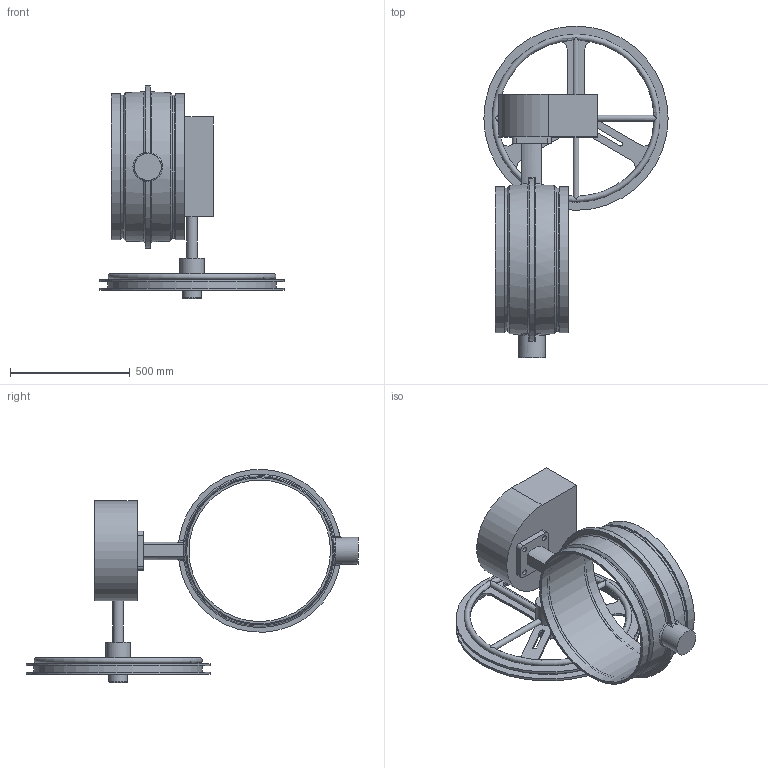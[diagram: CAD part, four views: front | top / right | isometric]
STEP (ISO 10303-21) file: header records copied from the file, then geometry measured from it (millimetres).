
FILE_DESCRIPTION(/* description */ ('VIC AGS VALVE BUTTERFLY VIC-300 MS CW SERIES W761 (AGS)'),/* implementation_level */ '2;1');
FILE_NAME(/* name */ 'C:\Files for Export\W761\STEP\Victaulic_IPS-AGS_Vlv Btfl Vic-300 MS CW_Series W761 (AGS)\Victaulic_IPS-AGS_Vlv Btfl Vic-300 MS CW_Series W761 (AGS)_24 (600).stp',/* time_stamp */ '2024-08-27T14:19:12+02:00',/* author */ ('jheald'),/* organization */ ('Victaulic'),/* preprocessor_version */ 'ST-DEVELOPER v18.1',/* originating_system */ 'Autodesk Inventor 2020',/* authorisation */ '');
FILE_SCHEMA (('AUTOMOTIVE_DESIGN { 1 0 10303 214 3 1 1 }'));
Length unit declared in the file: inch
Products named in the file (1): W761-24.0
Bounding box: 768.35 x 1384.43 x 888.34 mm (x, y, z)
Volume: 44541780.3 mm3; surface area: 3072622.4 mm2
Topology: 2 solids, 2 shells, 159 faces, 448 edges, 285 vertices
Faces by surface type: cylinder 66, plane 53, torus 18, bspline 10, sphere 8, cone 4
Full cylindrical faces by diameter (mm): 21.438 x4, 24.994 x2, 44.45 x1, 76.2 x1, 101.6 x1, 111.76 x1, 124.46 x1, 590.042 x1, 596.9 x2, 609.6 x2, 693.674 x1, 701.802 x2, 768.35 x2
Entity records: 6256 total; most frequent: CARTESIAN_POINT 1833, ORIENTED_EDGE 906, DIRECTION 898, EDGE_CURVE 453, AXIS2_PLACEMENT_3D 371, VERTEX_POINT 286, CIRCLE 221, EDGE_LOOP 183
